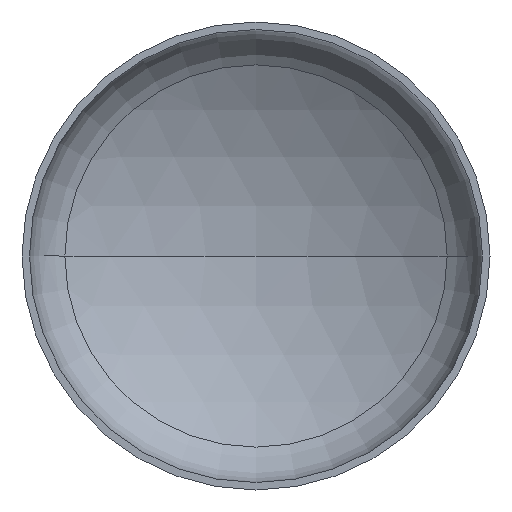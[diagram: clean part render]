
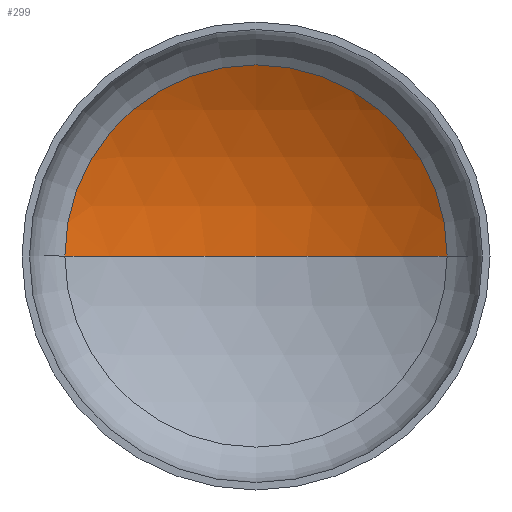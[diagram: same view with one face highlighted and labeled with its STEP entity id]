
A CAD part, front view. The second image highlights one B-rep face of the part: STEP entity #299.
In plain terms, the highlighted spherical face has radius 3600 mm.
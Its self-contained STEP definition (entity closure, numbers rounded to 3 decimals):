
#1 = CARTESIAN_POINT ( 'NONE',  ( -1837.797, 717.615, 0. ) ) ;
#13 = AXIS2_PLACEMENT_3D ( 'NONE', #398, #189, #181 ) ;
#22 = AXIS2_PLACEMENT_3D ( 'NONE', #122, #224, #27 ) ;
#24 = AXIS2_PLACEMENT_3D ( 'NONE', #201, #354, #228 ) ;
#25 = EDGE_LOOP ( 'NONE', ( #127, #120, #64 ) ) ;
#26 = AXIS2_PLACEMENT_3D ( 'NONE', #221, #218, #220 ) ;
#27 = DIRECTION ( 'NONE',  ( 1., 0., 0. ) ) ;
#64 = ORIENTED_EDGE ( 'NONE', *, *, #82, .T. ) ;
#82 = EDGE_CURVE ( 'NONE', #147, #125, #174, .T. ) ;
#84 = EDGE_CURVE ( 'NONE', #138, #147, #242, .T. ) ;
#87 = EDGE_CURVE ( 'NONE', #138, #125, #408, .T. ) ;
#120 = ORIENTED_EDGE ( 'NONE', *, *, #84, .T. ) ;
#122 = CARTESIAN_POINT ( 'NONE',  ( 0., -2377.946, 0. ) ) ;
#125 = VERTEX_POINT ( 'NONE', #1 ) ;
#127 = ORIENTED_EDGE ( 'NONE', *, *, #87, .F. ) ;
#138 = VERTEX_POINT ( 'NONE', #199 ) ;
#147 = VERTEX_POINT ( 'NONE', #222 ) ;
#150 = SPHERICAL_SURFACE ( 'NONE', #13, 3600. ) ;
#174 = CIRCLE ( 'NONE', #26, 1837.797 ) ;
#181 = DIRECTION ( 'NONE',  ( -1., 0., 0. ) ) ;
#189 = DIRECTION ( 'NONE',  ( 0., 0., -1. ) ) ;
#199 = CARTESIAN_POINT ( 'NONE',  ( 0., 1222.054, 0. ) ) ;
#201 = CARTESIAN_POINT ( 'NONE',  ( 0., -2377.946, 0. ) ) ;
#218 = DIRECTION ( 'NONE',  ( 0., -1., 0. ) ) ;
#220 = DIRECTION ( 'NONE',  ( 1., 0., 0. ) ) ;
#221 = CARTESIAN_POINT ( 'NONE',  ( 0., 717.615, 0. ) ) ;
#222 = CARTESIAN_POINT ( 'NONE',  ( 1837.797, 717.615, 0. ) ) ;
#224 = DIRECTION ( 'NONE',  ( 0., 0., 1. ) ) ;
#228 = DIRECTION ( 'NONE',  ( -1., 0., 0. ) ) ;
#242 = CIRCLE ( 'NONE', #24, 3600. ) ;
#299 = ADVANCED_FACE ( 'NONE', ( #392 ), #150, .F. ) ;
#354 = DIRECTION ( 'NONE',  ( 0., 0., -1. ) ) ;
#392 = FACE_OUTER_BOUND ( 'NONE', #25, .T. ) ;
#398 = CARTESIAN_POINT ( 'NONE',  ( 0., -2377.946, 0. ) ) ;
#408 = CIRCLE ( 'NONE', #22, 3600. ) ;
